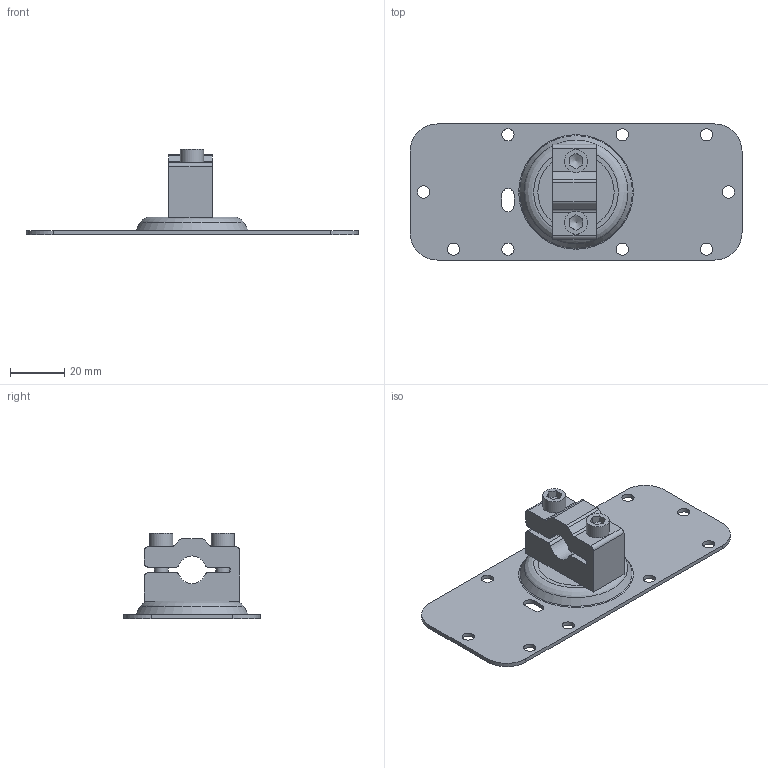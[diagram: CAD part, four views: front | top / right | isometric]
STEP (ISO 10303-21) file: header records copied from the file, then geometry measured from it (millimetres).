
FILE_DESCRIPTION(/* description */ (''),/* implementation_level */ '2;1');
FILE_NAME(/* name */ '3DCAD_BTU460_D10.stp',/* time_stamp */ '2015-03-09T10:05:31+01:00',/* author */ (''),/* organization */ (''),/* preprocessor_version */ 'ST-DEVELOPER v15',/* originating_system */ 'SIEMENS PLM Software NX 8.5',/* authorisation */ '');
FILE_SCHEMA (('AUTOMOTIVE_DESIGN { 1 0 10303 214 3 1 1 1 }'));
Length unit declared in the file: millimetre
Products named in the file (5): 50029688_1_00.0; BT 450_1 - 106_01; 002329_00.0; 006628_A; 006629_A2
Assembly tree (5 placements, depth 2):
  006629_A2
    006628_A
    002329_00.0
    BT 450_1 - 106_01
    50029688_1_00.0  x2
Bounding box: 122 x 50 x 31.5 mm (x, y, z)
Volume: 21030.6 mm3; surface area: 19833 mm2
Topology: 5 solids, 5 shells, 101 faces, 269 edges, 180 vertices
Faces by surface type: plane 46, cylinder 43, cone 6, torus 6
Full cylindrical faces by diameter (mm): 4.2 x2, 4.5 x9, 5 x2, 5.3 x4, 8.5 x2, 28 x1, 33.6 x1
Entity records: 2752 total; most frequent: CARTESIAN_POINT 478, DIRECTION 466, ORIENTED_EDGE 392, EDGE_CURVE 196, AXIS2_PLACEMENT_3D 185, EDGE_LOOP 150, VERTEX_POINT 147, FACE_BOUND 105
